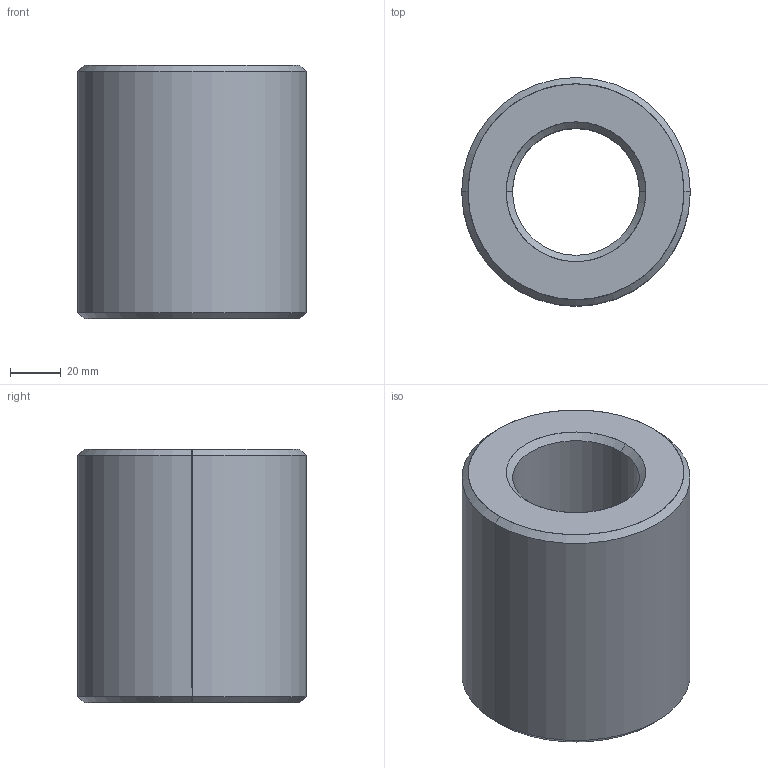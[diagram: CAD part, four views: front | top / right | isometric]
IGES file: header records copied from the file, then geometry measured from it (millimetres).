
Start section: SolidWorks IGES file using analytic representation for surfaces
Global section: file name: C:\Users\ianosborn\Desktop\L1330_v2\L1330_v2_20241024_IGES\L1330.R50-08.igs; native system: SolidWorks 2019; preprocessor: SolidWorks 2019; author: IanOsborn; date: 241024.102952; units: millimetre
Bounding box: 90 x 90 x 100 mm (x, y, z)
Surface area: 51490.6 mm2 (no closed solid volume)
Topology: 0 solids, 0 shells, 14 faces, 304 edges, 304 vertices
Faces by surface type: revolution 12, bspline 2
